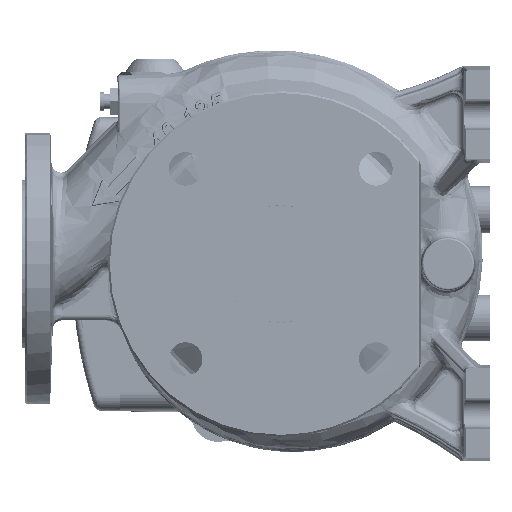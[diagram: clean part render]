
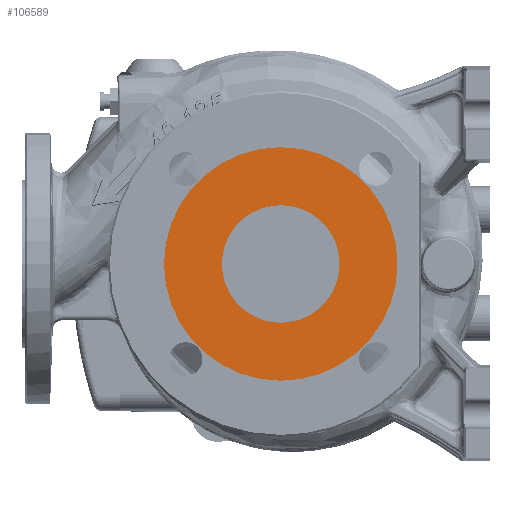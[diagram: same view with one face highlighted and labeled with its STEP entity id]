
A CAD part, left-side view. The second image highlights one B-rep face of the part: STEP entity #106589.
In plain terms, the highlighted planar face has unit normal (-1, 0, 0).
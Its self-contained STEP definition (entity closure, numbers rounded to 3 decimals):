
#3577 = EDGE_CURVE ( 'NONE', #49734, #110319, #86602, .T. ) ;
#4958 = AXIS2_PLACEMENT_3D ( 'NONE', #63649, #217286, #65821 ) ;
#7462 = VERTEX_POINT ( 'NONE', #169318 ) ;
#8143 = CARTESIAN_POINT ( 'NONE',  ( -260.264, 139.201, 31.5 ) ) ;
#15692 = DIRECTION ( 'NONE',  ( 0., 0., -1. ) ) ;
#16595 = DIRECTION ( 'NONE',  ( 0., 0., -1. ) ) ;
#29358 = FACE_OUTER_BOUND ( 'NONE', #103198, .T. ) ;
#36528 = DIRECTION ( 'NONE',  ( 1., 0., 0. ) ) ;
#40638 = AXIS2_PLACEMENT_3D ( 'NONE', #90495, #177741, #142382 ) ;
#42265 = EDGE_CURVE ( 'NONE', #75102, #7462, #134578, .T. ) ;
#45939 = DIRECTION ( 'NONE',  ( 1., 0., 0. ) ) ;
#49734 = VERTEX_POINT ( 'NONE', #8143 ) ;
#63649 = CARTESIAN_POINT ( 'NONE',  ( -260.264, 139.201, 0. ) ) ;
#64481 = ORIENTED_EDGE ( 'NONE', *, *, #42265, .F. ) ;
#65821 = DIRECTION ( 'NONE',  ( 0., 0., 1. ) ) ;
#67149 = ORIENTED_EDGE ( 'NONE', *, *, #3577, .F. ) ;
#71017 = AXIS2_PLACEMENT_3D ( 'NONE', #178614, #45939, #15692 ) ;
#75102 = VERTEX_POINT ( 'NONE', #87796 ) ;
#80487 = AXIS2_PLACEMENT_3D ( 'NONE', #153709, #36528, #16595 ) ;
#80558 = EDGE_CURVE ( 'NONE', #110319, #49734, #111729, .T. ) ;
#86602 = CIRCLE ( 'NONE', #40638, 31.5 ) ;
#87796 = CARTESIAN_POINT ( 'NONE',  ( -260.264, 139.201, 62.5 ) ) ;
#90495 = CARTESIAN_POINT ( 'NONE',  ( -260.264, 139.201, 0. ) ) ;
#94753 = CIRCLE ( 'NONE', #80487, 62.5 ) ;
#101270 = CARTESIAN_POINT ( 'NONE',  ( -260.264, 139.201, 0. ) ) ;
#103198 = EDGE_LOOP ( 'NONE', ( #207768, #64481 ) ) ;
#106589 = ADVANCED_FACE ( 'NONE', ( #180848, #29358 ), #128912, .T. ) ;
#110319 = VERTEX_POINT ( 'NONE', #186527 ) ;
#111729 = CIRCLE ( 'NONE', #143430, 31.5 ) ;
#120829 = EDGE_LOOP ( 'NONE', ( #67149, #217044 ) ) ;
#128912 = PLANE ( 'NONE',  #4958 ) ;
#134578 = CIRCLE ( 'NONE', #71017, 62.5 ) ;
#136603 = DIRECTION ( 'NONE',  ( -1., 0., 0. ) ) ;
#142382 = DIRECTION ( 'NONE',  ( 0., 0., -1. ) ) ;
#143430 = AXIS2_PLACEMENT_3D ( 'NONE', #101270, #136603, #168668 ) ;
#153709 = CARTESIAN_POINT ( 'NONE',  ( -260.264, 139.201, 0. ) ) ;
#168668 = DIRECTION ( 'NONE',  ( 0., 0., -1. ) ) ;
#169318 = CARTESIAN_POINT ( 'NONE',  ( -260.264, 139.201, -62.5 ) ) ;
#177741 = DIRECTION ( 'NONE',  ( -1., 0., 0. ) ) ;
#178614 = CARTESIAN_POINT ( 'NONE',  ( -260.264, 139.201, 0. ) ) ;
#180848 = FACE_BOUND ( 'NONE', #120829, .T. ) ;
#186527 = CARTESIAN_POINT ( 'NONE',  ( -260.264, 139.201, -31.5 ) ) ;
#197988 = EDGE_CURVE ( 'NONE', #7462, #75102, #94753, .T. ) ;
#207768 = ORIENTED_EDGE ( 'NONE', *, *, #197988, .F. ) ;
#217044 = ORIENTED_EDGE ( 'NONE', *, *, #80558, .F. ) ;
#217286 = DIRECTION ( 'NONE',  ( -1., 0., 0. ) ) ;
